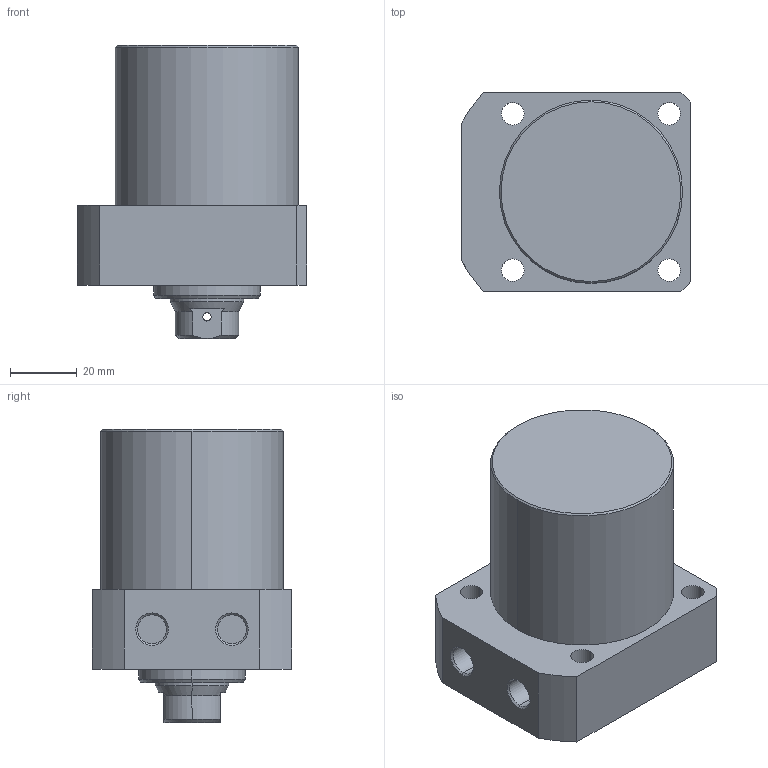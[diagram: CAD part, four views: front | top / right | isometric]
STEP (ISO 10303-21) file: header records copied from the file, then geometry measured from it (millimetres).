
FILE_DESCRIPTION (( 'STEP AP203' ), '1' );
FILE_NAME ('CLLR-055CB-035.STEP', '2019-12-19T07:47:20', ( '' ), ( '' ), 'SwSTEP 2.0', 'SolidWorks 2015', '' );
FILE_SCHEMA (( 'CONFIG_CONTROL_DESIGN' ));
Length unit declared in the file: millimetre
Products named in the file (1): CLLR-055CB-035
Bounding box: 69 x 60 x 88 mm (x, y, z)
Volume: 211636.9 mm3; surface area: 26520.3 mm2
Topology: 1 solids, 1 shells, 69 faces, 163 edges, 102 vertices
Faces by surface type: cylinder 33, plane 19, cone 17
Entity records: 2183 total; most frequent: CARTESIAN_POINT 453, DIRECTION 368, ORIENTED_EDGE 322, EDGE_CURVE 161, AXIS2_PLACEMENT_3D 149, VERTEX_POINT 102, EDGE_LOOP 89, CIRCLE 79
